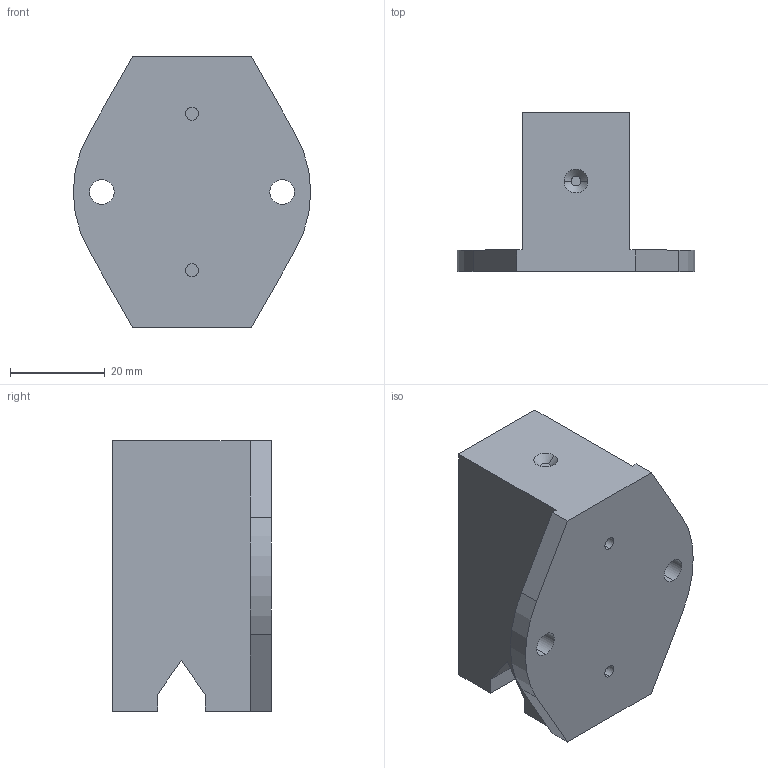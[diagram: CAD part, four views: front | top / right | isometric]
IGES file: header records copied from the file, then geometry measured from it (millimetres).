
Start section: 3D InterOp IGES (v. 2019 1.0.2), Spatial Corp. Copyright (c) 1999-2017.
Global section: file name: SS LB 76F.igs; native system: Spatial Corp.; preprocessor: 3D InterOp GENERIC/IGES 3.0; author: Noname; organization: Noname; date: 20220628.115131; units: millimetre
Bounding box: 50 x 33.5 x 57 mm (x, y, z)
Surface area: 10401.5 mm2 (no closed solid volume)
Topology: 0 solids, 0 shells, 32 faces, 162 edges, 162 vertices
Faces by surface type: extrusion 20, revolution 12
